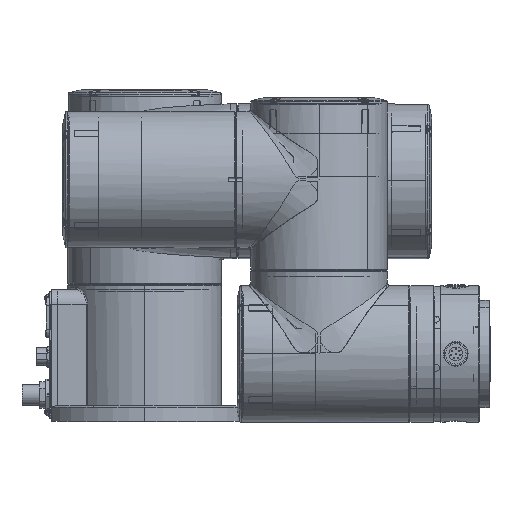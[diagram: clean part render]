
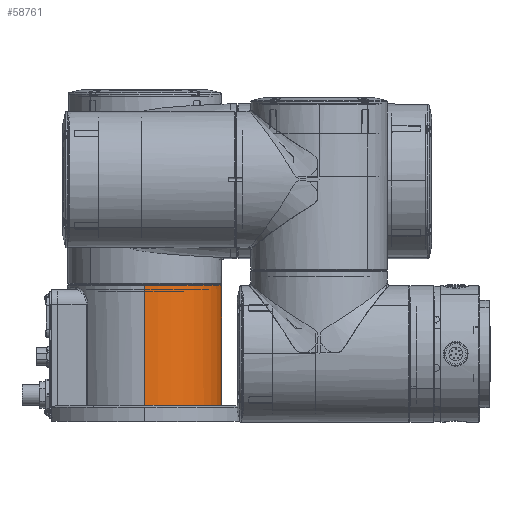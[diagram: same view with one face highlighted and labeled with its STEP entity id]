
A CAD part, top view. The second image highlights one B-rep face of the part: STEP entity #58761.
In plain terms, the highlighted cylindrical face has radius 45 mm (diameter 90 mm), a partial arc.
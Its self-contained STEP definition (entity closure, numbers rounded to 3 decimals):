
#1395 = DIRECTION ( 'NONE',  ( 0., 0., -1. ) ) ;
#3115 = EDGE_CURVE ( 'NONE', #25235, #107735, #115607, .T. ) ;
#4583 = LINE ( 'NONE', #115042, #57739 ) ;
#15426 = CARTESIAN_POINT ( 'NONE',  ( 0., 0., 75.6 ) ) ;
#15544 = DIRECTION ( 'NONE',  ( 0., 0., 1. ) ) ;
#17854 = CARTESIAN_POINT ( 'NONE',  ( 0., 0., 81.2 ) ) ;
#19101 = VERTEX_POINT ( 'NONE', #62460 ) ;
#21413 = CARTESIAN_POINT ( 'NONE',  ( 45., 0., 79.3 ) ) ;
#22940 = VECTOR ( 'NONE', #110270, 1000. ) ;
#25235 = VERTEX_POINT ( 'NONE', #21413 ) ;
#27778 = VERTEX_POINT ( 'NONE', #91529 ) ;
#29020 = CIRCLE ( 'NONE', #51180, 45. ) ;
#29245 = DIRECTION ( 'NONE',  ( 0., 0., -1. ) ) ;
#31125 = VERTEX_POINT ( 'NONE', #73161 ) ;
#31893 = CARTESIAN_POINT ( 'NONE',  ( -45., 0., 79.3 ) ) ;
#32229 = ORIENTED_EDGE ( 'NONE', *, *, #115490, .T. ) ;
#34232 = ORIENTED_EDGE ( 'NONE', *, *, #3115, .T. ) ;
#35162 = EDGE_CURVE ( 'NONE', #107735, #84038, #140052, .T. ) ;
#38823 = LINE ( 'NONE', #54455, #22940 ) ;
#40668 = CYLINDRICAL_SURFACE ( 'NONE', #62146, 45. ) ;
#45973 = CARTESIAN_POINT ( 'NONE',  ( -45., 0., 9. ) ) ;
#46764 = VECTOR ( 'NONE', #123624, 1000. ) ;
#49644 = EDGE_CURVE ( 'NONE', #56858, #19101, #61263, .T. ) ;
#49948 = CIRCLE ( 'NONE', #73851, 45. ) ;
#51180 = AXIS2_PLACEMENT_3D ( 'NONE', #15426, #72759, #62388 ) ;
#52473 = DIRECTION ( 'NONE',  ( 1., 0., 0. ) ) ;
#54455 = CARTESIAN_POINT ( 'NONE',  ( 1., 44.989, 77.6 ) ) ;
#56858 = VERTEX_POINT ( 'NONE', #31893 ) ;
#57739 = VECTOR ( 'NONE', #1395, 1000. ) ;
#58761 = ADVANCED_FACE ( 'NONE', ( #93629 ), #40668, .T. ) ;
#61263 = CIRCLE ( 'NONE', #131112, 45. ) ;
#62146 = AXIS2_PLACEMENT_3D ( 'NONE', #17854, #29245, #52473 ) ;
#62388 = DIRECTION ( 'NONE',  ( -1., 0., 0. ) ) ;
#62460 = CARTESIAN_POINT ( 'NONE',  ( -1., 44.989, 79.3 ) ) ;
#63854 = CARTESIAN_POINT ( 'NONE',  ( -45., 0., 81.2 ) ) ;
#68733 = ORIENTED_EDGE ( 'NONE', *, *, #49644, .T. ) ;
#70896 = DIRECTION ( 'NONE',  ( 0., 0., -1. ) ) ;
#72759 = DIRECTION ( 'NONE',  ( 0., 0., 1. ) ) ;
#73161 = CARTESIAN_POINT ( 'NONE',  ( -1., 44.989, 75.6 ) ) ;
#73851 = AXIS2_PLACEMENT_3D ( 'NONE', #125773, #113931, #114402 ) ;
#75266 = AXIS2_PLACEMENT_3D ( 'NONE', #94607, #15544, #115845 ) ;
#84038 = VERTEX_POINT ( 'NONE', #45973 ) ;
#88573 = EDGE_CURVE ( 'NONE', #123590, #27778, #38823, .T. ) ;
#89852 = EDGE_LOOP ( 'NONE', ( #34232, #113838, #110192, #68733, #105902, #137520, #119303, #32229 ) ) ;
#91529 = CARTESIAN_POINT ( 'NONE',  ( 1., 44.989, 79.3 ) ) ;
#93629 = FACE_OUTER_BOUND ( 'NONE', #89852, .T. ) ;
#94607 = CARTESIAN_POINT ( 'NONE',  ( 0., 0., 9. ) ) ;
#97653 = CARTESIAN_POINT ( 'NONE',  ( 1., 44.989, 75.6 ) ) ;
#104995 = CARTESIAN_POINT ( 'NONE',  ( 0., 0., 79.3 ) ) ;
#105902 = ORIENTED_EDGE ( 'NONE', *, *, #138894, .T. ) ;
#107735 = VERTEX_POINT ( 'NONE', #115764 ) ;
#110192 = ORIENTED_EDGE ( 'NONE', *, *, #125115, .F. ) ;
#110270 = DIRECTION ( 'NONE',  ( 0., 0., 1. ) ) ;
#111089 = VECTOR ( 'NONE', #119618, 1000. ) ;
#113838 = ORIENTED_EDGE ( 'NONE', *, *, #35162, .T. ) ;
#113931 = DIRECTION ( 'NONE',  ( 0., 0., -1. ) ) ;
#114402 = DIRECTION ( 'NONE',  ( -1., 0., 0. ) ) ;
#115042 = CARTESIAN_POINT ( 'NONE',  ( -1., 44.989, 77.6 ) ) ;
#115388 = DIRECTION ( 'NONE',  ( -1., 0., 0. ) ) ;
#115490 = EDGE_CURVE ( 'NONE', #27778, #25235, #49948, .T. ) ;
#115607 = LINE ( 'NONE', #136422, #46764 ) ;
#115764 = CARTESIAN_POINT ( 'NONE',  ( 45., 0., 9. ) ) ;
#115845 = DIRECTION ( 'NONE',  ( 1., 0., 0. ) ) ;
#119303 = ORIENTED_EDGE ( 'NONE', *, *, #88573, .T. ) ;
#119618 = DIRECTION ( 'NONE',  ( 0., 0., -1. ) ) ;
#119789 = LINE ( 'NONE', #63854, #111089 ) ;
#123590 = VERTEX_POINT ( 'NONE', #97653 ) ;
#123624 = DIRECTION ( 'NONE',  ( 0., 0., -1. ) ) ;
#125115 = EDGE_CURVE ( 'NONE', #56858, #84038, #119789, .T. ) ;
#125773 = CARTESIAN_POINT ( 'NONE',  ( 0., 0., 79.3 ) ) ;
#131112 = AXIS2_PLACEMENT_3D ( 'NONE', #104995, #70896, #115388 ) ;
#135786 = EDGE_CURVE ( 'NONE', #123590, #31125, #29020, .T. ) ;
#136422 = CARTESIAN_POINT ( 'NONE',  ( 45., 0., 81.2 ) ) ;
#137520 = ORIENTED_EDGE ( 'NONE', *, *, #135786, .F. ) ;
#138894 = EDGE_CURVE ( 'NONE', #19101, #31125, #4583, .T. ) ;
#140052 = CIRCLE ( 'NONE', #75266, 45. ) ;
